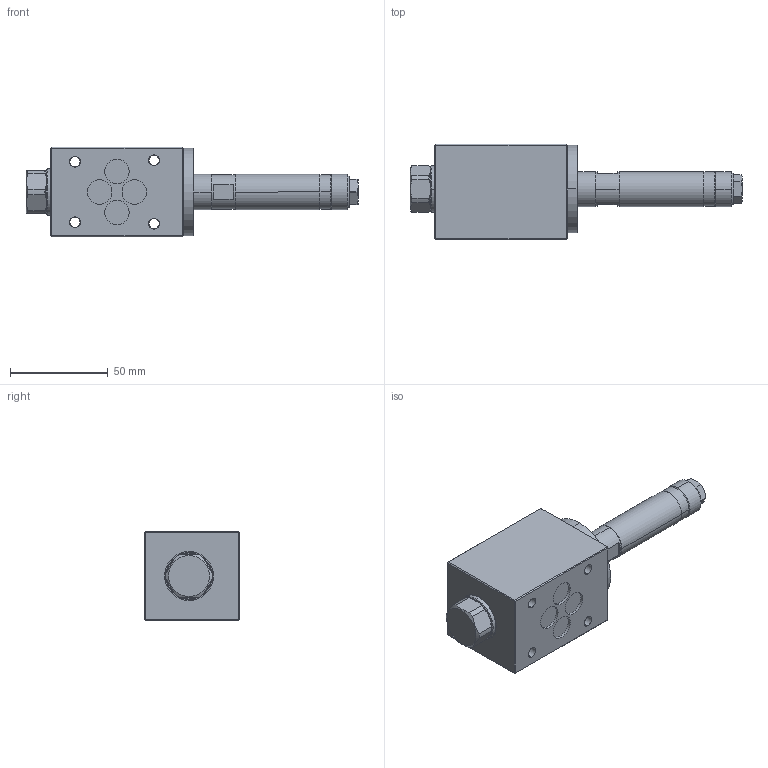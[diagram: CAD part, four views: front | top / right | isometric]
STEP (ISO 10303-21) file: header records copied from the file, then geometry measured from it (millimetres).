
FILE_DESCRIPTION (( 'STEP AP214' ), '1' );
FILE_NAME ('WDBFA06-4_2-Bside-S.STEP', '2023-07-04T12:54:59', ( '' ), ( '' ), 'SwSTEP 2.0', 'SolidWorks 2022', '' );
FILE_SCHEMA (( 'AUTOMOTIVE_DESIGN' ));
Length unit declared in the file: millimetre
Products named in the file (1): WDBFA06-4_2-Bside-S
Bounding box: 170.1 x 49 x 46 mm (x, y, z)
Volume: 180346 mm3; surface area: 27710.1 mm2
Topology: 1 solids, 1 shells, 256 faces, 613 edges, 391 vertices
Faces by surface type: plane 123, cylinder 72, cone 36, bspline 15, torus 10
Entity records: 11338 total; most frequent: CARTESIAN_POINT 2604, ORIENTED_EDGE 1226, DIRECTION 1192, EDGE_CURVE 613, AXIS2_PLACEMENT_3D 443, VERTEX_POINT 391, LINE 306, VECTOR 306
